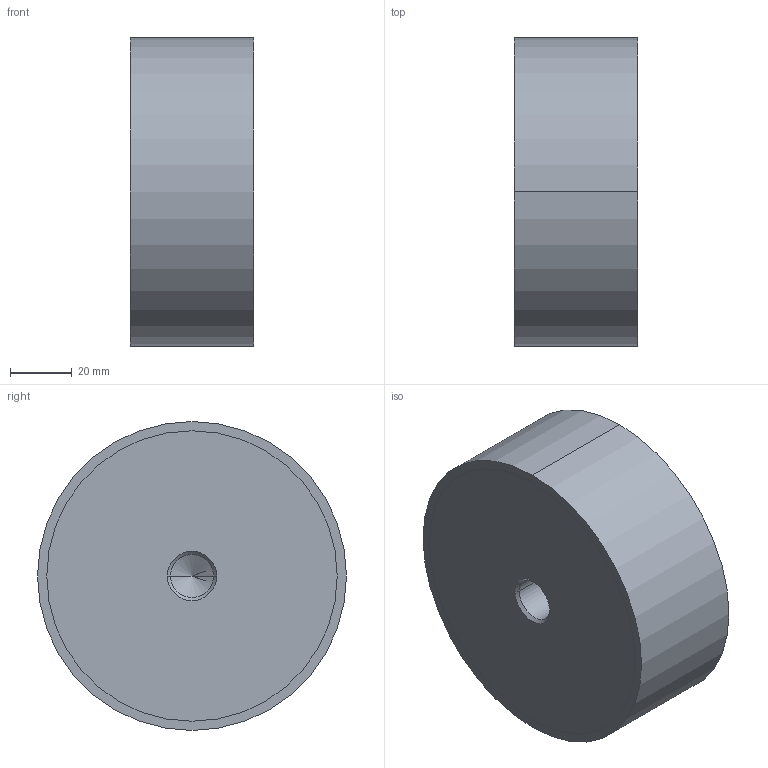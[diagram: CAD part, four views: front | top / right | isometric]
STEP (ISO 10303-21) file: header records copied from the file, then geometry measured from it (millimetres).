
FILE_DESCRIPTION (( 'STEP AP214' ), '1' );
FILE_NAME ('351-100-40-M16-EE-40.step', '2025-07-23T09:56:57', ( '' ), ( '' ), 'SwSTEP 2.0', 'SolidWorks 2022', '' );
FILE_SCHEMA (( 'AUTOMOTIVE_DESIGN' ));
Length unit declared in the file: millimetre
Products named in the file (1): 351-100-40-M16-EE-40
Bounding box: 40 x 100 x 100 mm (x, y, z)
Volume: 308651.3 mm3; surface area: 29683.3 mm2
Topology: 1 solids, 1 shells, 28 faces, 58 edges, 34 vertices
Faces by surface type: cylinder 14, cone 8, plane 6
Entity records: 844 total; most frequent: DIRECTION 144, CARTESIAN_POINT 117, ORIENTED_EDGE 108, AXIS2_PLACEMENT_3D 61, EDGE_CURVE 54, EDGE_LOOP 34, VERTEX_POINT 34, CIRCLE 32
